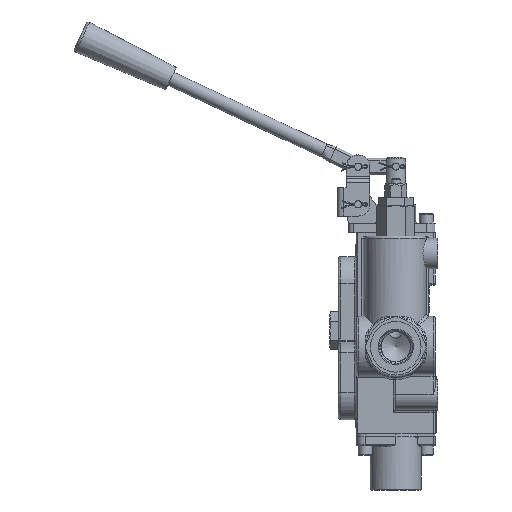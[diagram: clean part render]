
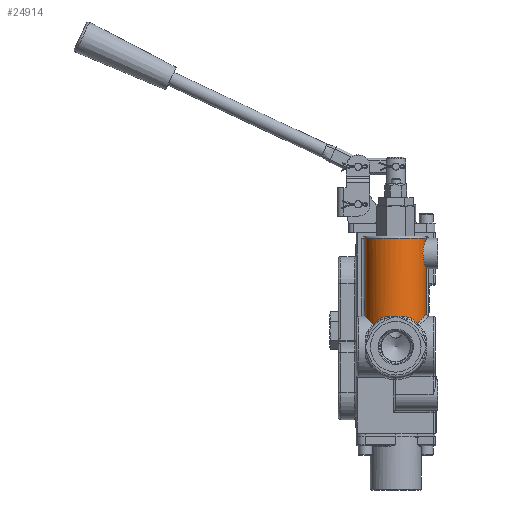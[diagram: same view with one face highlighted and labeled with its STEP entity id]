
A CAD part, left-side view. The second image highlights one B-rep face of the part: STEP entity #24914.
In plain terms, the highlighted cylindrical face has radius 20.625 mm (diameter 41.25 mm), a partial arc.
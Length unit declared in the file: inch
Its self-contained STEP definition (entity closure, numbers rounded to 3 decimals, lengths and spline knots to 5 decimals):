
#22510=CARTESIAN_POINT('',(-1.95268,0.59488,2.99288));
#22511=VERTEX_POINT('',#22510);
#22558=CARTESIAN_POINT('',(-2.0968,0.41692,3.148));
#22559=VERTEX_POINT('',#22558);
#22567=CARTESIAN_POINT('',(-1.4,0.,2.398));
#22568=DIRECTION('',(-0.733,0.,-0.681));
#22569=DIRECTION('',(-0.681,0.,0.733));
#22570=AXIS2_PLACEMENT_3D('',#22567,#22568,#22569);
#22571=ELLIPSE('',#22570,1.19299,0.812);
#22572=EDGE_CURVE('',#22559,#22511,#22571,.T.);
#22620=CARTESIAN_POINT('',(-2.212,0.0,3.21));
#22621=VERTEX_POINT('',#22620);
#22633=CARTESIAN_POINT('',(-2.15224,0.30575,3.19113));
#22634=VERTEX_POINT('',#22633);
#22635=CARTESIAN_POINT('',(-2.212,0.,3.21));
#22636=CARTESIAN_POINT('',(-2.212,0.00048,3.21005));
#22637=CARTESIAN_POINT('',(-2.212,0.00096,3.21011));
#22638=CARTESIAN_POINT('',(-2.21193,0.04299,3.21475));
#22639=CARTESIAN_POINT('',(-2.20697,0.10589,3.21633));
#22640=CARTESIAN_POINT('',(-2.18675,0.20831,3.20853));
#22641=CARTESIAN_POINT('',(-2.16776,0.26755,3.19826));
#22642=CARTESIAN_POINT('',(-2.15224,0.30575,3.19113));
#22643=B_SPLINE_CURVE_WITH_KNOTS('',3,(#22635,#22636,#22637,#22638,#22639,#22640,#22641,#22642),.UNSPECIFIED.,.F.,.U.,(4,2,1,1,4),(-0.86025,-0.8563,-0.51378,-0.34252,0.0),.UNSPECIFIED.);
#22644=EDGE_CURVE('',#22621,#22634,#22643,.T.);
#22691=CARTESIAN_POINT('',(-2.15224,-0.30575,3.19113));
#22692=VERTEX_POINT('',#22691);
#22700=CARTESIAN_POINT('',(-2.15224,-0.30575,3.19113));
#22701=CARTESIAN_POINT('',(-2.16,-0.28665,3.19469));
#22702=CARTESIAN_POINT('',(-2.17408,-0.24778,3.2018));
#22703=CARTESIAN_POINT('',(-2.20196,-0.1479,3.21565));
#22704=CARTESIAN_POINT('',(-2.2119,-0.06378,3.21706));
#22705=CARTESIAN_POINT('',(-2.212,-0.00096,3.21011));
#22706=CARTESIAN_POINT('',(-2.212,-0.00048,3.21005));
#22707=CARTESIAN_POINT('',(-2.212,0.,3.21));
#22708=B_SPLINE_CURVE_WITH_KNOTS('',3,(#22700,#22701,#22702,#22703,#22704,#22705,#22706,#22707),.UNSPECIFIED.,.F.,.U.,(4,1,1,2,4),(-0.8563,-0.68504,-0.51378,0.0,0.00395),.UNSPECIFIED.);
#22709=EDGE_CURVE('',#22692,#22621,#22708,.T.);
#22747=CARTESIAN_POINT('',(-2.15224,0.30575,3.19113));
#22748=CARTESIAN_POINT('',(-2.13606,0.34555,3.18371));
#22749=CARTESIAN_POINT('',(-2.11667,0.3837,3.16939));
#22750=CARTESIAN_POINT('',(-2.0968,0.41692,3.148));
#22751=B_SPLINE_CURVE_WITH_KNOTS('',3,(#22747,#22748,#22749,#22750),.UNSPECIFIED.,.F.,.U.,(4,4),(-0.35686,0.0),.UNSPECIFIED.);
#22752=EDGE_CURVE('',#22634,#22559,#22751,.T.);
#22878=CARTESIAN_POINT('',(-1.4,-0.812,3.272));
#22879=VERTEX_POINT('',#22878);
#22912=CARTESIAN_POINT('',(-1.97417,-0.57417,3.01601));
#22913=VERTEX_POINT('',#22912);
#22977=CARTESIAN_POINT('',(-1.4,0.0,2.398));
#22978=DIRECTION('',(0.0,-0.733,-0.681));
#22979=DIRECTION('',(0.0,-0.681,0.733));
#22980=AXIS2_PLACEMENT_3D('',#22977,#22978,#22979);
#22981=ELLIPSE('',#22980,1.19299,0.812);
#22982=EDGE_CURVE('',#22879,#22913,#22981,.T.);
#23008=CARTESIAN_POINT('',(-2.0968,-0.41692,3.148));
#23009=VERTEX_POINT('',#23008);
#23027=CARTESIAN_POINT('',(-1.4,0.,2.398));
#23028=DIRECTION('',(-0.733,0.,-0.681));
#23029=DIRECTION('',(-0.681,0.,0.733));
#23030=AXIS2_PLACEMENT_3D('',#23027,#23028,#23029);
#23031=ELLIPSE('',#23030,1.19299,0.812);
#23032=EDGE_CURVE('',#22913,#23009,#23031,.T.);
#23109=CARTESIAN_POINT('',(-2.0968,-0.41692,3.148));
#23110=CARTESIAN_POINT('',(-2.11667,-0.3837,3.16939));
#23111=CARTESIAN_POINT('',(-2.13606,-0.34555,3.18371));
#23112=CARTESIAN_POINT('',(-2.15224,-0.30575,3.19113));
#23113=B_SPLINE_CURVE_WITH_KNOTS('',3,(#23109,#23110,#23111,#23112),.UNSPECIFIED.,.F.,.U.,(4,4),(-0.35686,0.),.UNSPECIFIED.);
#23114=EDGE_CURVE('',#23009,#22692,#23113,.T.);
#23588=CARTESIAN_POINT('',(-1.4,0.812,3.21));
#23589=VERTEX_POINT('',#23588);
#23590=CARTESIAN_POINT('',(-1.4,0.0,2.398));
#23591=DIRECTION('',(0.0,0.707,-0.707));
#23592=DIRECTION('',(0.,0.707,0.707));
#23593=AXIS2_PLACEMENT_3D('',#23590,#23591,#23592);
#23594=ELLIPSE('',#23593,1.14834,0.812);
#23595=EDGE_CURVE('',#22511,#23589,#23594,.T.);
#24689=CARTESIAN_POINT('',(-1.4,0.812,5.28));
#24690=VERTEX_POINT('',#24689);
#24721=CARTESIAN_POINT('',(-1.4,-0.812,5.28));
#24722=VERTEX_POINT('',#24721);
#24740=CARTESIAN_POINT('',(-1.4,0.0,5.28));
#24741=DIRECTION('',(0.0,0.0,1.0));
#24742=DIRECTION('',(-1.0,0.0,0.0));
#24743=AXIS2_PLACEMENT_3D('',#24740,#24741,#24742);
#24744=CIRCLE('',#24743,0.812);
#24745=EDGE_CURVE('',#24690,#24722,#24744,.T.);
#24824=CARTESIAN_POINT('',(-1.4,-0.812,5.2794));
#24825=VERTEX_POINT('',#24824);
#24826=CARTESIAN_POINT('',(-1.4,-0.812,5.28));
#24827=DIRECTION('',(0.0,0.0,-1.0));
#24828=VECTOR('',#24827,0.0006);
#24829=LINE('',#24826,#24828);
#24830=EDGE_CURVE('',#24722,#24825,#24829,.T.);
#24850=CARTESIAN_POINT('',(-1.4,-0.812,4.4706));
#24851=VERTEX_POINT('',#24850);
#24859=CARTESIAN_POINT('',(-1.4,-0.812,4.4706));
#24860=DIRECTION('',(0.0,0.0,-1.0));
#24861=VECTOR('',#24860,1.1986);
#24862=LINE('',#24859,#24861);
#24863=EDGE_CURVE('',#24851,#22879,#24862,.T.);
#24868=CARTESIAN_POINT('',(-1.4,0.0,5.342));
#24869=DIRECTION('',(0.0,0.0,-1.0));
#24870=DIRECTION('',(0.0,1.0,0.0));
#24871=AXIS2_PLACEMENT_3D('',#24868,#24869,#24870);
#24872=CYLINDRICAL_SURFACE('',#24871,0.812);
#24873=ORIENTED_EDGE('',*,*,#22982,.F.);
#24874=ORIENTED_EDGE('',*,*,#24863,.F.);
#24875=CARTESIAN_POINT('',(-1.4,-0.812,4.4706));
#24876=CARTESIAN_POINT('',(-1.4404,-0.812,4.4742));
#24877=CARTESIAN_POINT('',(-1.48155,-0.80882,4.48418));
#24878=CARTESIAN_POINT('',(-1.56976,-0.79566,4.52086));
#24879=CARTESIAN_POINT('',(-1.61491,-0.78394,4.55189));
#24880=CARTESIAN_POINT('',(-1.68639,-0.76076,4.62307));
#24881=CARTESIAN_POINT('',(-1.71762,-0.74766,4.6683));
#24882=CARTESIAN_POINT('',(-1.75944,-0.72848,4.76823));
#24883=CARTESIAN_POINT('',(-1.77,-0.7228,4.82302));
#24884=CARTESIAN_POINT('',(-1.77,-0.7228,4.875));
#24885=CARTESIAN_POINT('',(-1.77,-0.7228,4.92698));
#24886=CARTESIAN_POINT('',(-1.75944,-0.72848,4.98177));
#24887=CARTESIAN_POINT('',(-1.71762,-0.74766,5.0817));
#24888=CARTESIAN_POINT('',(-1.68639,-0.76076,5.12693));
#24889=CARTESIAN_POINT('',(-1.61491,-0.78394,5.19811));
#24890=CARTESIAN_POINT('',(-1.56976,-0.79566,5.22914));
#24891=CARTESIAN_POINT('',(-1.48155,-0.80882,5.26582));
#24892=CARTESIAN_POINT('',(-1.4404,-0.812,5.2758));
#24893=CARTESIAN_POINT('',(-1.4,-0.812,5.2794));
#24894=B_SPLINE_CURVE_WITH_KNOTS('',3,(#24875,#24876,#24877,#24878,#24879,#24880,#24881,#24882,#24883,#24884,#24885,#24886,#24887,#24888,#24889,#24890,#24891,#24892,#24893),.UNSPECIFIED.,.F.,.U.,(4,2,2,2,3,2,2,2,4),(-1.48693,-1.1848,-0.79217,-0.39609,0.0,0.39609,0.79217,1.1848,1.48693),.UNSPECIFIED.);
#24895=EDGE_CURVE('',#24851,#24825,#24894,.T.);
#24896=ORIENTED_EDGE('',*,*,#24895,.T.);
#24897=ORIENTED_EDGE('',*,*,#24830,.F.);
#24898=ORIENTED_EDGE('',*,*,#24745,.F.);
#24899=CARTESIAN_POINT('',(-1.4,0.812,5.28));
#24900=DIRECTION('',(0.0,0.0,-1.0));
#24901=VECTOR('',#24900,2.07);
#24902=LINE('',#24899,#24901);
#24903=EDGE_CURVE('',#24690,#23589,#24902,.T.);
#24904=ORIENTED_EDGE('',*,*,#24903,.T.);
#24905=ORIENTED_EDGE('',*,*,#23595,.F.);
#24906=ORIENTED_EDGE('',*,*,#22572,.F.);
#24907=ORIENTED_EDGE('',*,*,#22752,.F.);
#24908=ORIENTED_EDGE('',*,*,#22644,.F.);
#24909=ORIENTED_EDGE('',*,*,#22709,.F.);
#24910=ORIENTED_EDGE('',*,*,#23114,.F.);
#24911=ORIENTED_EDGE('',*,*,#23032,.F.);
#24912=EDGE_LOOP('',(#24873,#24874,#24896,#24897,#24898,#24904,#24905,#24906,#24907,#24908,#24909,#24910,#24911));
#24913=FACE_OUTER_BOUND('',#24912,.T.);
#24914=ADVANCED_FACE('',(#24913),#24872,.T.);
